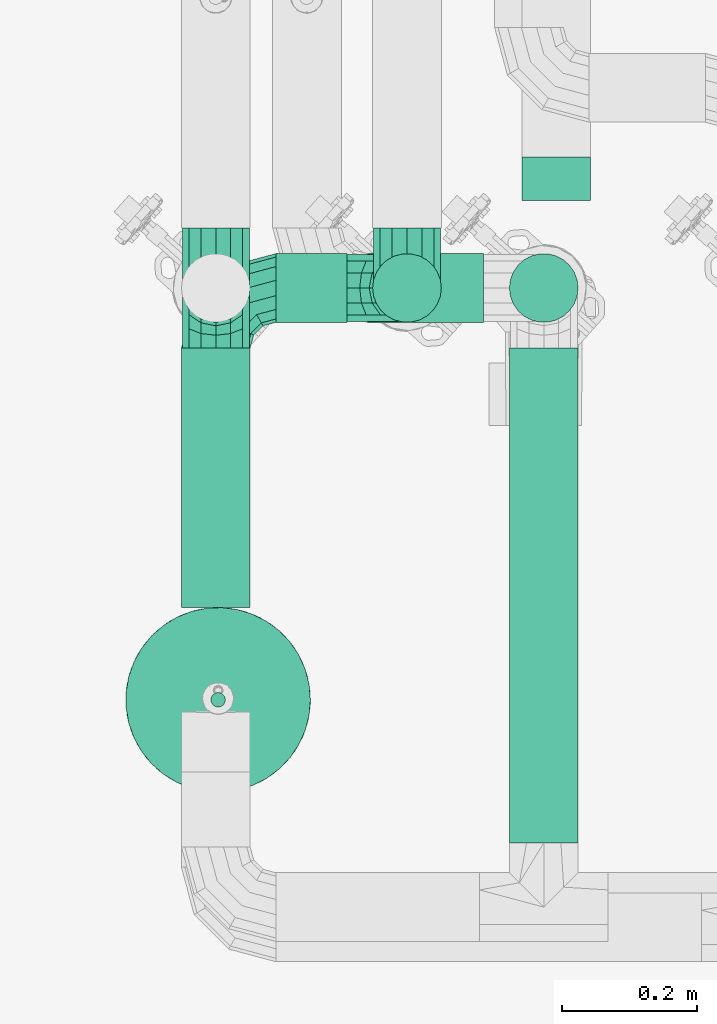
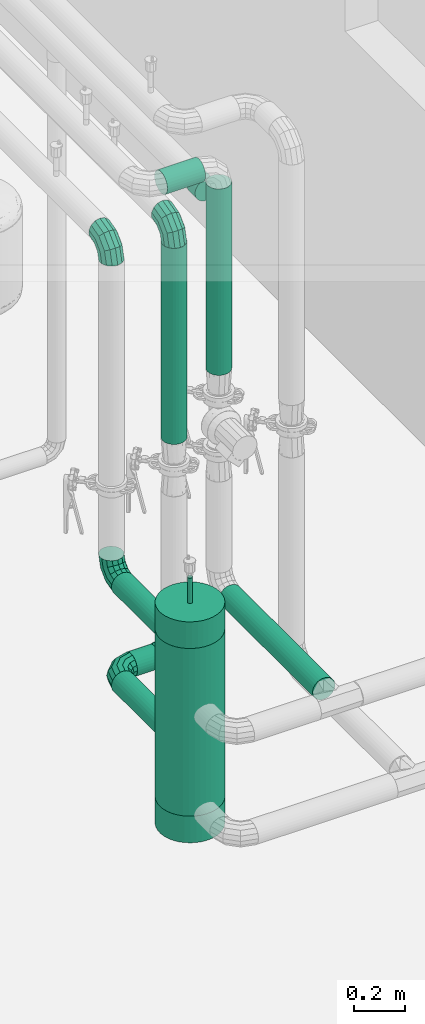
# One storey, part 9 of 43: 9 flow segments, 8 flow fittings.
"""IFC2X3 building model written with IfcOpenShell, lengths in millimetres."""

from ifc_helpers import new_model, entity, si_unit, converted_unit, derived_unit, direction, frame, frame_2d, origin, origin_2d_with_axis, place, context, subcontext, project, spatial, circle, extrude, faceted_brep, source, transform, mapped, material, material_list, type_object, type_shapes, element, save


model = new_model("IFC2X3")

# Units and contexts
model_context = context("Model", 3, precision=0.01, world=origin(), true_north=direction((6.123031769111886e-17, 1.0)))
body_context = subcontext(model_context, "Body", "Model", "MODEL_VIEW")
ifc_project = project(units=[si_unit("LENGTHUNIT", "METRE", prefix="MILLI"), si_unit("AREAUNIT", "SQUARE_METRE"), si_unit("VOLUMEUNIT", "CUBIC_METRE"), converted_unit("PLANEANGLEUNIT", "DEGREE", entity("IfcRatioMeasure", 0.017453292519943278), si_unit("PLANEANGLEUNIT", "RADIAN"), dimensions=[0, 0, 0, 0, 0, 0, 0]), si_unit("MASSUNIT", "GRAM", prefix="KILO"), derived_unit("MASSDENSITYUNIT", [(si_unit("MASSUNIT", "GRAM", prefix="KILO"), 1), (si_unit("LENGTHUNIT", "METRE"), -3)]), derived_unit("MOMENTOFINERTIAUNIT", [(si_unit("LENGTHUNIT", "METRE"), 4)]), si_unit("TIMEUNIT", "SECOND"), si_unit("FREQUENCYUNIT", "HERTZ"), si_unit("THERMODYNAMICTEMPERATUREUNIT", "DEGREE_CELSIUS"), derived_unit("THERMALTRANSMITTANCEUNIT", [(si_unit("MASSUNIT", "GRAM", prefix="KILO"), 1), (si_unit("THERMODYNAMICTEMPERATUREUNIT", "KELVIN"), -1), (si_unit("TIMEUNIT", "SECOND"), -3)]), derived_unit("VOLUMETRICFLOWRATEUNIT", [(si_unit("LENGTHUNIT", "METRE"), 3), (si_unit("TIMEUNIT", "SECOND"), -1)]), derived_unit("MASSFLOWRATEUNIT", [(si_unit("MASSUNIT", "GRAM", prefix="KILO"), 1), (si_unit("TIMEUNIT", "SECOND"), -1)]), derived_unit("ROTATIONALFREQUENCYUNIT", [(si_unit("TIMEUNIT", "SECOND"), -1)]), si_unit("ELECTRICCURRENTUNIT", "AMPERE"), si_unit("ELECTRICVOLTAGEUNIT", "VOLT"), si_unit("POWERUNIT", "WATT"), si_unit("FORCEUNIT", "NEWTON", prefix="KILO"), si_unit("ILLUMINANCEUNIT", "LUX"), si_unit("LUMINOUSFLUXUNIT", "LUMEN"), si_unit("LUMINOUSINTENSITYUNIT", "CANDELA"), derived_unit("USERDEFINED", [(si_unit("MASSUNIT", "GRAM", prefix="KILO"), -1), (si_unit("LENGTHUNIT", "METRE"), -2), (si_unit("TIMEUNIT", "SECOND"), 3), (si_unit("LUMINOUSFLUXUNIT", "LUMEN"), 1)]), derived_unit("SOUNDPOWERUNIT", [(si_unit("MASSUNIT", "GRAM", prefix="KILO"), 1), (si_unit("LENGTHUNIT", "METRE"), 2), (si_unit("TIMEUNIT", "SECOND"), -3)]), derived_unit("SOUNDPRESSUREUNIT", [(si_unit("MASSUNIT", "GRAM", prefix="KILO"), 1), (si_unit("LENGTHUNIT", "METRE"), -1), (si_unit("TIMEUNIT", "SECOND"), -2)]), derived_unit("LINEARVELOCITYUNIT", [(si_unit("LENGTHUNIT", "METRE"), 1), (si_unit("TIMEUNIT", "SECOND"), -1)]), si_unit("PRESSUREUNIT", "PASCAL"), derived_unit("USERDEFINED", [(si_unit("LENGTHUNIT", "METRE"), -2), (si_unit("MASSUNIT", "GRAM", prefix="KILO"), 1), (si_unit("TIMEUNIT", "SECOND"), -2)]), derived_unit("LINEARFORCEUNIT", [(si_unit("MASSUNIT", "GRAM", prefix="KILO"), 1), (si_unit("LENGTHUNIT", "METRE"), 1), (si_unit("TIMEUNIT", "SECOND"), -2), (si_unit("LENGTHUNIT", "METRE"), -1)]), derived_unit("PLANARFORCEUNIT", [(si_unit("MASSUNIT", "GRAM", prefix="KILO"), 1), (si_unit("LENGTHUNIT", "METRE"), 1), (si_unit("TIMEUNIT", "SECOND"), -2), (si_unit("LENGTHUNIT", "METRE"), -2)])], contexts=[model_context])

# Site, building, storey
site_placement = place(None, origin())
site = spatial("IfcSite", under=ifc_project, at=site_placement, Name="Default", CompositionType="ELEMENT")
building_placement = place(site_placement, origin())
building = spatial("IfcBuilding", under=site, at=building_placement, CompositionType="ELEMENT")
storey_placement = place(building_placement, frame((0.0, 0.0, 270.0)))
storey = spatial("IfcBuildingStorey", under=building, at=storey_placement, Name="Niveau 0", CompositionType="ELEMENT", Elevation=270.0)

# Flow segments
pipe_segment_type = type_object("IfcPipeSegmentType", Name="Canalisation:tube acier", PredefinedType="NOTDEFINED")
flow_segment_1_placement = place(storey_placement, origin())
element("IfcFlowSegment", 1, at=flow_segment_1_placement, inside=storey, type_object=pipe_segment_type, Name="Canalisation:tube acier", ObjectType="Canalisation:tube acier", context=body_context, shape_type="SweptSolid", body=[
    extrude(circle(Radius=136.525, at=frame_2d((5.414335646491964e-13, -2.1657342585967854e-12), x_axis=(1.0, 0.0))), frame((-2499.821656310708, -13439.0, 269.29115313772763), z_axis=(0.0, 0.0, 1.0), x_axis=(-1.0, 0.0, 0.0)), (0.0, 0.0, 1.0), 800.0000000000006),
])
flow_segment_2_placement = place(storey_placement, origin())
element("IfcFlowSegment", 2, at=flow_segment_2_placement, inside=storey, type_object=pipe_segment_type, Name="Canalisation:tube acier", ObjectType="Canalisation:tube acier", context=body_context, shape_type="SweptSolid", body=[
    extrude(circle(Radius=50.8, at=origin_2d_with_axis()), frame((-2018.2631800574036, -13650.499999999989, 741.957837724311), z_axis=(0.0, 1.0, 6.9459141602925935e-06), x_axis=(1.0, 0.0, 0.0)), (0.0, 0.0, 1.0), 731.5000000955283),
])
flow_segment_3_placement = place(storey_placement, origin())
element("IfcFlowSegment", 3, at=flow_segment_3_placement, inside=storey, type_object=pipe_segment_type, Name="Canalisation:tube acier", ObjectType="Canalisation:tube acier", context=body_context, shape_type="SweptSolid", body=[
    extrude(circle(Radius=50.8, at=origin_2d_with_axis()), frame((-2018.2631800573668, -12830.0, 1774.4161531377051)), (0.0, 0.0, 1.0), 888.5504903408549),
])
flow_segment_4_placement = place(storey_placement, origin())
element("IfcFlowSegment", 4, at=flow_segment_4_placement, inside=storey, type_object=pipe_segment_type, Name="Canalisation:tube acier", ObjectType="Canalisation:tube acier", context=body_context, shape_type="SweptSolid", body=[
    extrude(circle(Radius=50.8, at=frame_2d((0.0, -5.414335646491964e-13), x_axis=(1.0, 0.0))), frame((-2279.263180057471, -12830.0, 2751.9664369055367), z_axis=(1.0, 0.0, 0.0), x_axis=(0.0, -1.0, 0.0)), (0.0, 0.0, 1.0), 172.00000000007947),
])
flow_segment_5_placement = place(storey_placement, origin())
element("IfcFlowSegment", 5, at=flow_segment_5_placement, inside=storey, type_object=pipe_segment_type, Name="Canalisation:tube acier", ObjectType="Canalisation:tube acier", context=body_context, shape_type="SweptSolid", body=[
    extrude(circle(Radius=50.8, at=frame_2d((-4.331468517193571e-12, 0.0), x_axis=(1.0, 0.0))), frame((-2503.263180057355, -13302.54339182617, 500.0), z_axis=(0.0, 1.0, 0.0), x_axis=(-1.0, 0.0, 0.0)), (0.0, 0.0, 1.0), 383.5433918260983),
])
flow_segment_6_placement = place(storey_placement, origin())
element("IfcFlowSegment", 6, at=flow_segment_6_placement, inside=storey, type_object=pipe_segment_type, Name="Canalisation:tube acier", ObjectType="Canalisation:tube acier", context=body_context, shape_type="SweptSolid", body=[
    extrude(circle(Radius=50.8, at=origin_2d_with_axis()), frame((-2414.263180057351, -12830.0, 500.0), z_axis=(1.0, 0.0, 0.0), x_axis=(0.0, -1.0, 0.0)), (0.0, 0.0, 1.0), 104.73327623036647),
])
flow_segment_7_placement = place(storey_placement, origin())
element("IfcFlowSegment", 7, at=flow_segment_7_placement, inside=storey, type_object=pipe_segment_type, Name="Canalisation:tube acier", ObjectType="Canalisation:tube acier", context=body_context, shape_type="SweptSolid", body=[
    extrude(circle(Radius=50.8, at=origin_2d_with_axis()), frame((-2220.529903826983, -12830.0, 1515.4999999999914), z_axis=(0.0, 0.0, 1.0), x_axis=(-1.0, 0.0, 0.0)), (0.0, 0.0, 1.0), 935.0537184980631),
])
flow_segment_8_placement = place(storey_placement, origin())
element("IfcFlowSegment", 8, at=flow_segment_8_placement, inside=storey, type_object=pipe_segment_type, Name="Canalisation:tube acier", ObjectType="Canalisation:tube acier", context=body_context, shape_type="SweptSolid", body=[
    extrude(circle(Radius=50.8, at=origin_2d_with_axis()), frame((-2503.263180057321, -13302.54339182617, 970.0), z_axis=(0.0, 1.0, 0.0), x_axis=(1.0, 0.0, 0.0)), (0.0, 0.0, 1.0), 383.5433918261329),
])
flow_segment_9_placement = place(storey_placement, origin())
element("IfcFlowSegment", 9, at=flow_segment_9_placement, inside=storey, type_object=pipe_segment_type, Name="Canalisation:tube acier", ObjectType="Canalisation:tube acier", context=body_context, shape_type="SweptSolid", body=[
    extrude(circle(Radius=10.668, at=origin_2d_with_axis()), frame((-2499.8216563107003, -13439.0, 1196.2911531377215), z_axis=(0.0, 0.0, 1.0), x_axis=(-1.0, 0.0, 0.0)), (0.0, 0.0, 1.0), 120.00000000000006),
])

# Flow fittings
ifc_material = material(Name="<Unnamed>")
pipe_fitting_type_1 = type_object("IfcPipeFittingType", Name="Chapeau - Générique:Standard", PredefinedType="NOTDEFINED", material=ifc_material)
shared_shape_1 = source(origin(), body_context, "Body", "SweptSolid", [
    extrude(circle(Radius=136.5, at=frame_2d((0.0, -2.2052183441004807e-13), x_axis=(1.0, 0.0))), frame((0.0, 0.0, 0.0), z_axis=(1.0, 0.0, 0.0), x_axis=(0.0, 1.0, 0.0)), (0.0, 0.0, 1.0), 127.00000000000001),
])
type_shapes(pipe_fitting_type_1, [shared_shape_1])
for number, where, z_axis, x_axis in (
    (10, (-2499.8216563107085, -13439.0, 269.29115313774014), (-1.0, 0.0, 0.0), (0.0, 0.0, -1.0)),
    (11, (-2499.8216563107, -13439.0, 1069.2911531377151), (0.0, 1.0, 0.0), (0.0, 0.0, 1.0)),
):
    element("IfcFlowFitting", number, at=place(storey_placement, frame(where, z_axis=z_axis, x_axis=x_axis)), inside=storey, type_object=pipe_fitting_type_1, material=ifc_material, Name="Chapeau - Générique:Standard", ObjectType="Chapeau - Générique:Standard", context=body_context, shape_type="MappedRepresentation", body=[
        mapped(shared_shape_1, transform((0.0, 0.0, 0.0), scale=1.0)),
    ])
pipe_fitting_type_2 = type_object("IfcPipeFittingType", Name="Chapeau - Générique:Standard", PredefinedType="NOTDEFINED", material=ifc_material)
shared_shape_2 = source(origin(), body_context, "Body", "SweptSolid", [
    extrude(circle(Radius=50.8, at=frame_2d((0.0, -8.206966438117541e-14), x_axis=(1.0, 0.0))), frame((0.0, 0.0, 0.0), z_axis=(1.0, 0.0, 0.0), x_axis=(0.0, 1.0, 0.0)), (0.0, 0.0, 1.0), 64.0),
])
type_shapes(pipe_fitting_type_2, [shared_shape_2])
flow_fitting_placement = place(storey_placement, frame((-2000.0, -12636.499999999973, 2539.5537184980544), z_axis=(0.0, 0.0, 1.0), x_axis=(0.0, -1.0, 0.0)))
element("IfcFlowFitting", 12, at=flow_fitting_placement, inside=storey, type_object=pipe_fitting_type_2, material=ifc_material, Name="Chapeau - Générique:Standard", ObjectType="Chapeau - Générique:Standard", context=body_context, shape_type="MappedRepresentation", body=[
    mapped(shared_shape_2, transform((0.0, 0.0, 0.0), scale=1.0)),
])
ifc_material_list = material_list([ifc_material, ifc_material])
pipe_fitting_type_3 = type_object("IfcPipeFittingType", Name="Coude - Générique:Standard", PredefinedType="NOTDEFINED", material=ifc_material_list)
shared_shape_3 = source(origin(), body_context, "Body", "Brep", [
    faceted_brep([(32.07035144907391, 19.099999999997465, 0.0), (27.713566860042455, 21.615390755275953, -22.04129394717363), (45.76921848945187, 89.0, -22.04129394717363), (50.80000000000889, 89.0, 0.0), (15.506127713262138, 28.663359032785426, -39.71703930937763), (31.67328193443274, 89.0, -39.71703930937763), (-2.1341329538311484, 38.84796827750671, -49.52633793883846), (11.304063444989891, 89.0, -49.52633793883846), (-21.713345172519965, 50.15203172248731, -49.526337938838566), (-11.304063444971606, 89.0, -49.526337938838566), (-39.35360583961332, 60.33664096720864, -39.71703930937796), (-31.67328193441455, 89.0, -39.71703930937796), (-51.56104498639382, 67.3846092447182, -22.041293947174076), (-45.769218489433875, 89.0, -22.041293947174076), (-55.91782957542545, 69.89999999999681, 0.0), (-50.79999999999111, 89.0, 0.0), (-51.56104498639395, 67.38460924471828, 22.041293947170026), (-45.76921848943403, 89.0, 22.041293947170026), (-39.35360583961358, 60.33664096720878, 39.71703930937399), (-31.673281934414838, 89.0, 39.71703930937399), (-21.713345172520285, 50.15203172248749, 49.52633793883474), (-11.304063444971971, 89.0, 49.52633793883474), (-2.134132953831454, 38.84796827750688, 49.52633793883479), (11.304063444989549, 89.0, 49.52633793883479), (15.506127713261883, 28.663359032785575, 39.71703930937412), (31.673281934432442, 89.0, 39.71703930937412), (27.713566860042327, 21.615390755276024, 22.04129394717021), (45.76921848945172, 89.0, 22.04129394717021), (-19.099999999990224, -32.07035144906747, 0.0), (-21.61539075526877, -27.713566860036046, -22.04129394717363), (-28.663359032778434, -15.506127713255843, -39.71703930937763), (-38.847968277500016, 2.1341329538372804, -49.52633793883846), (-50.15203172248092, 21.71334517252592, -49.526337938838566), (-60.33664096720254, 39.35360583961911, -39.71703930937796), (-67.38460924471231, 51.56104498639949, -22.041293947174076), (-69.89999999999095, 55.91782957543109, 0.0), (-67.3846092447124, 51.56104498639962, 22.041293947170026), (-60.33664096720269, 39.353605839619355, 39.71703930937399), (-50.152031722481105, 21.71334517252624, 49.52633793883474), (-38.84796827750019, 2.134132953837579, 49.52633793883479), (-28.663359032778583, -15.506127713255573, 39.71703930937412), (-21.61539075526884, -27.713566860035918, 22.04129394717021), (-89.0, -50.80000000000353, 0.0), (-89.0, -45.769218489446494, -22.04129394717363), (-89.0, -31.673281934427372, -39.71703930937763), (-89.0, -11.304063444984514, -49.52633793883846), (-89.0, 11.304063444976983, -49.526337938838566), (-89.0, 31.673281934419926, -39.71703930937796), (-89.0, 45.769218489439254, -22.041293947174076), (-89.0, 50.79999999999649, 0.0), (-89.0, 45.76921848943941, 22.041293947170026), (-89.0, 31.673281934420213, 39.71703930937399), (-89.0, 11.304063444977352, 49.52633793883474), (-89.0, -11.304063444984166, 49.52633793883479), (-89.0, -31.673281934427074, 39.71703930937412), (-89.0, -45.76921848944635, 22.04129394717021)], [[[0, 1, 2, 3]], [[1, 4, 5, 2]], [[4, 6, 7, 5]], [[6, 8, 9, 7]], [[8, 10, 11, 9]], [[10, 12, 13, 11]], [[12, 14, 15, 13]], [[14, 16, 17, 15]], [[16, 18, 19, 17]], [[18, 20, 21, 19]], [[20, 22, 23, 21]], [[22, 24, 25, 23]], [[24, 26, 27, 25]], [[26, 0, 3, 27]], [[28, 29, 1, 0]], [[29, 30, 4, 1]], [[30, 31, 6, 4]], [[31, 32, 8, 6]], [[32, 33, 10, 8]], [[33, 34, 12, 10]], [[34, 35, 14, 12]], [[35, 36, 16, 14]], [[36, 37, 18, 16]], [[37, 38, 20, 18]], [[38, 39, 22, 20]], [[39, 40, 24, 22]], [[40, 41, 26, 24]], [[41, 28, 0, 26]], [[42, 43, 29, 28]], [[43, 44, 30, 29]], [[44, 45, 31, 30]], [[45, 46, 32, 31]], [[46, 47, 33, 32]], [[47, 48, 34, 33]], [[48, 49, 35, 34]], [[49, 50, 36, 35]], [[50, 51, 37, 36]], [[51, 52, 38, 37]], [[52, 53, 39, 38]], [[53, 54, 40, 39]], [[54, 55, 41, 40]], [[55, 42, 28, 41]], [[3, 2, 5, 7, 9, 11, 13, 15, 17, 19, 21, 23, 25, 27]], [[55, 54, 53, 52, 51, 50, 49, 48, 47, 46, 45, 44, 43, 42]]]),
])
type_shapes(pipe_fitting_type_3, [shared_shape_3])
for number, where, z_axis, x_axis in (
    (13, (-2503.263180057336, -12830.0, 500.0), (0.0, 0.0, 1.0), (-1.0, 0.0, 0.0)),
    (14, (-2220.5299038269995, -12830.0, 500.0), (0.0, -1.0, 0.0), (1.0, 0.0, 0.0)),
    (15, (-2220.5299038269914, -12830.0, 2539.5537184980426), (1.0, 0.0, 0.0), (0.0, -1.0, 0.0)),
    (16, (-2503.2631800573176, -12830.0, 2554.015858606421), (1.0, 0.0, 0.0), (0.0, -1.0, 0.0)),
    (17, (-2503.263180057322, -12830.0, 970.0), (1.0, 0.0, 0.0), (0.0, 1.0, 0.0)),
):
    element("IfcFlowFitting", number, at=place(storey_placement, frame(where, z_axis=z_axis, x_axis=x_axis)), inside=storey, type_object=pipe_fitting_type_3, material=ifc_material, Name="Coude - Générique:Standard", ObjectType="Coude - Générique:Standard", context=body_context, shape_type="MappedRepresentation", body=[
        mapped(shared_shape_3, transform((0.0, 0.0, 0.0), scale=1.0)),
    ])

save(model, "model.ifc")
